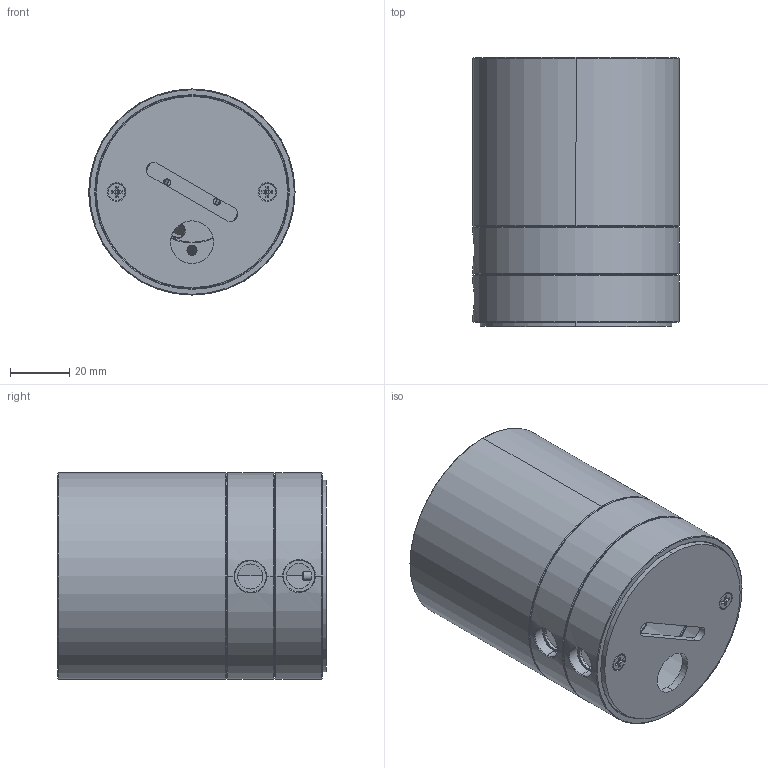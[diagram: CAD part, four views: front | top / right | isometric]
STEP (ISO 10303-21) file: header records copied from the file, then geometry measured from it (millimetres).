
FILE_DESCRIPTION (( 'STEP AP203' ), '1' );
FILE_NAME ('Satellite.STEP', '2021-09-27T12:33:26', ( '' ), ( '' ), 'SwSTEP 2.0', 'SolidWorks 2021', '' );
FILE_SCHEMA (( 'CONFIG_CONTROL_DESIGN' ));
Length unit declared in the file: millimetre
Products named in the file (6): WSR1TLL01CRCEW38L2; AXO063-09 - SatRing2; AXO063-11rev1 - SatHeatsink; Satellite; AXO063-08 - SatBase; ISO7046_M3_H08
Assembly tree (7 placements, depth 2):
  Satellite
    AXO063-08 - SatBase
    AXO063-09 - SatRing2  x2
    AXO063-11rev1 - SatHeatsink
    WSR1TLL01CRCEW38L2
    ISO7046_M3_H08  x2
Bounding box: 69.8 x 91 x 69.8 mm (x, y, z)
Volume: 176890 mm3; surface area: 58318 mm2
Topology: 7 solids, 7 shells, 711 faces, 1720 edges, 1056 vertices
Faces by surface type: cylinder 347, bspline 154, plane 126, cone 84
Entity records: 24049 total; most frequent: CARTESIAN_POINT 9856, ORIENTED_EDGE 3186, DIRECTION 2154, EDGE_CURVE 1593, VERTEX_POINT 977, AXIS2_PLACEMENT_3D 890, B_SPLINE_CURVE_WITH_KNOTS 835, EDGE_LOOP 722
